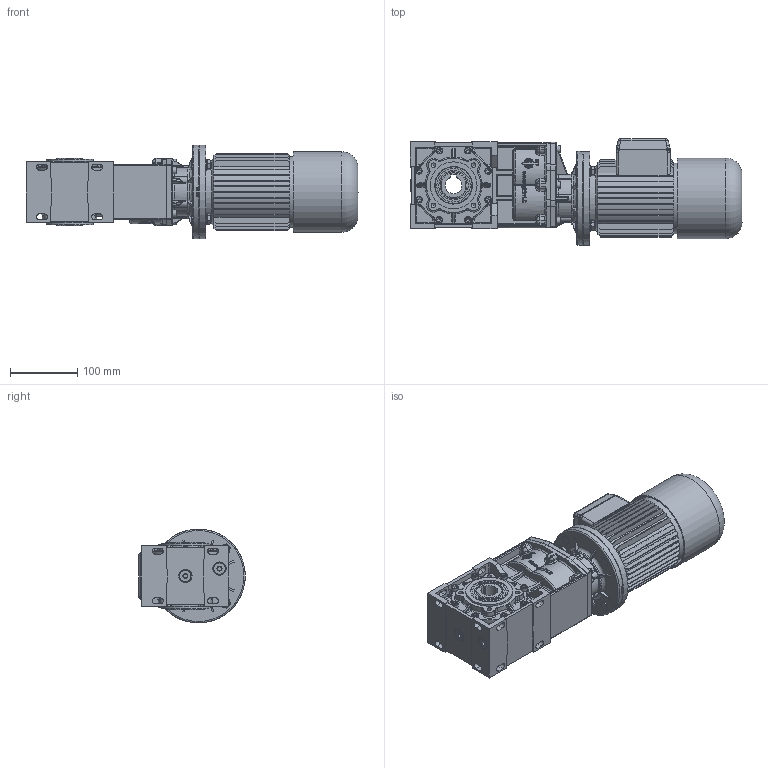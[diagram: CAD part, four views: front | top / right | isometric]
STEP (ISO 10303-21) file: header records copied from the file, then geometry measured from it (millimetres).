
FILE_DESCRIPTION((''),'2;1');
FILE_NAME('S:\Ghirri\3D\MO_RO10\Assiemi\MO10_3s-B5_63brake.stp','2006-02-01T15:17:11',('Stefano'),(''),'Autodesk Inventor 10','Autodesk Inventor 10','');
FILE_SCHEMA(('AUTOMOTIVE_DESIGN { 1 0 10303 214 1 1 1 1 }'));
Length unit declared in the file: millimetre
Products named in the file (17): MO10_3s-B5_63brake; Primario_MO10_3S; 3901001-A0; 3901002-A0; 3901003-A0; 3901009-A0; Paraolio-40-56-7; Guarnizione 1_4 GAS; Tappo 1_4 GAS; UNI 5931  M 6 x  20; UNI 8839 A 6; motori B5 brake 63; FM-40-50-D=140; UNI 5739  M8 x 25; UNI 5589  M8; UNI 6593 9 x 17
Assembly tree (52 placements, depth 3):
  MO10_3s-B5_63brake
    Primario_MO10_3S
      3901001-A0
      3901002-A0
      3901003-A0
      3901009-A0
      Paraolio-40-56-7  x2
      Guarnizione 1_4 GAS  x5
      Tappo 1_4 GAS  x5
      UNI 5931  M 6 x  20  x14
      UNI 8839 A 6  x6
    motori B5 brake 63
    FM-40-50-D=140
      FM-40-50-D=140
      UNI 5739  M8 x 25  x4
      UNI 5589  M8  x4
      UNI 6593 9 x 17  x4
Bounding box: 495.5 x 159 x 140 mm (x, y, z)
Volume: 3901888.1 mm3; surface area: 585764 mm2
Topology: 51 solids, 52 shells, 3506 faces, 8780 edges, 5426 vertices
Faces by surface type: plane 1409, cylinder 993, bspline 901, cone 153, torus 46, sphere 4
Full cylindrical faces by diameter (mm): 5 x3, 6 x14, 6.5 x14, 8 x4, 9 x4, 9.5 x4, 10 x14, 11 x1, 11.445 x1, 11.63 x4, 13 x10, 17 x4, 18 x5, 19 x5, 20 x1, 40 x4, 44 x2, 46 x2, 48 x1, 50 x2, 52 x2, 55 x2, 56 x4, 70 x2, 78 x1, 95 x3, 96.4 x1, 102 x3, 105.6 x1, 116 x1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
Entity records: 141511 total; most frequent: CARTESIAN_POINT 71791, ORIENTED_EDGE 14948, DIRECTION 13706, EDGE_CURVE 7474, AXIS2_PLACEMENT_3D 5219, VERTEX_POINT 4731, EDGE_LOOP 3401, VECTOR 3268
